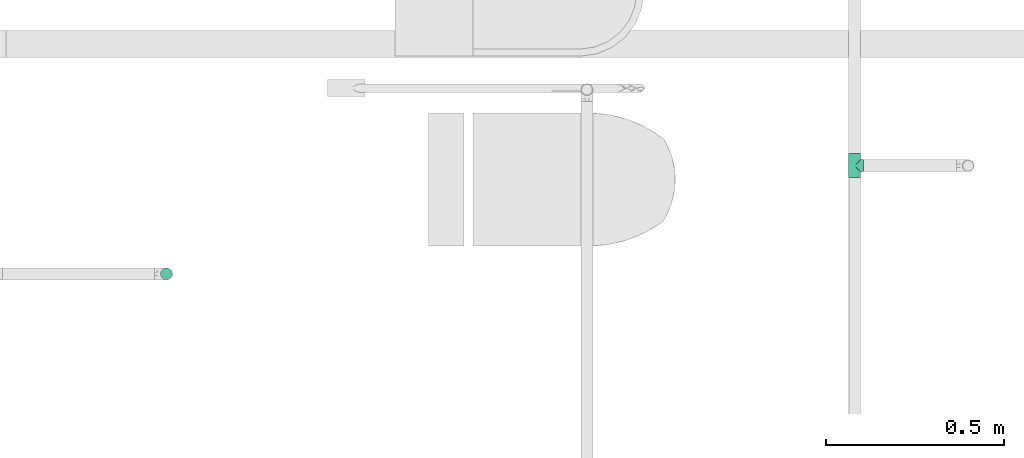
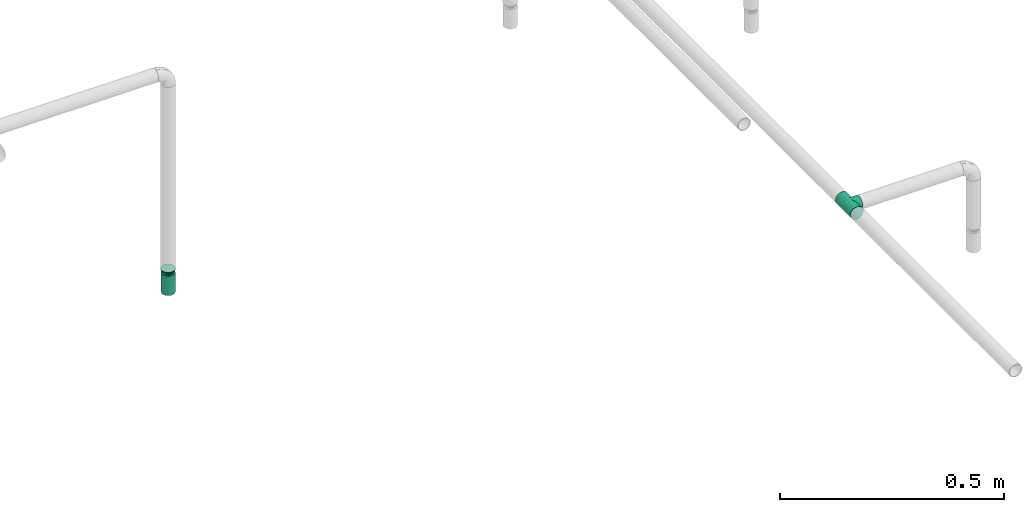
# One storey, part 46 of 95: 2 flow fittings, 1 flow terminal.
"""IFC2X3 building model written with IfcOpenShell, lengths in millimetres."""

from ifc_helpers import new_model, entity, si_unit, converted_unit, derived_unit, direction, frame, origin_with_axes, place, context, subcontext, project, spatial, open_shell, surface_model, source, transform, mapped, type_object, element, save


model = new_model("IFC2X3")

# Units and contexts
model_context = context("Model", 3, precision=0.01, world=frame((0.0, 4.29681676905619e-09, 0.0)), true_north=direction((4.01073788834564e-13, 1.0)))
plan_context = context("Plan", 3, precision=0.01, world=frame((0.0, 4.29681676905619e-09, 0.0)), true_north=direction((4.01073788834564e-13, 1.0)))
body_context = subcontext(model_context, "Body", "Model", "MODEL_VIEW")
ifc_project = project(units=[converted_unit("PLANEANGLEUNIT", "DEGREE", entity("IfcPositiveLengthMeasure", 0.0174532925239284), si_unit("PLANEANGLEUNIT", "RADIAN"), dimensions=[0, 0, 0, 0, 0, 0, 0]), si_unit("AREAUNIT", "SQUARE_METRE"), si_unit("LENGTHUNIT", "METRE", prefix="MILLI"), si_unit("MASSUNIT", "GRAM", prefix="KILO"), si_unit("POWERUNIT", "WATT"), si_unit("PRESSUREUNIT", "PASCAL"), si_unit("FORCEUNIT", "NEWTON", prefix="KILO"), si_unit("ELECTRICVOLTAGEUNIT", "VOLT"), si_unit("ELECTRICCURRENTUNIT", "AMPERE"), si_unit("THERMODYNAMICTEMPERATUREUNIT", "DEGREE_CELSIUS"), si_unit("TIMEUNIT", "SECOND"), si_unit("VOLUMEUNIT", "CUBIC_METRE"), derived_unit("LINEARVELOCITYUNIT", [(si_unit("LENGTHUNIT", "METRE"), 1), (si_unit("TIMEUNIT", "SECOND"), -1)]), derived_unit("VOLUMETRICFLOWRATEUNIT", [(si_unit("VOLUMEUNIT", "CUBIC_METRE"), 1), (si_unit("TIMEUNIT", "SECOND"), -1)]), derived_unit("THERMALTRANSMITTANCEUNIT", [(si_unit("POWERUNIT", "WATT"), 1), (si_unit("THERMODYNAMICTEMPERATUREUNIT", "KELVIN"), -1), (si_unit("AREAUNIT", "SQUARE_METRE"), -1)]), derived_unit("SOUNDPRESSUREUNIT", [(si_unit("PRESSUREUNIT", "PASCAL"), 1)])], contexts=[model_context, plan_context])

# Site, building, storey
site_placement = place(None, frame((0.0, -4.29681676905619e-09, 0.0), z_axis=(0.0, 0.0, 1.0), x_axis=(1.0, 0.0, 0.0)))
site = spatial("IfcSite", under=ifc_project, at=site_placement, CompositionType="ELEMENT")
building_placement = place(site_placement, frame((0.0, 4.29681676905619e-09, 0.0), z_axis=(0.0, 0.0, 1.0), x_axis=(1.0, 0.0, 0.0)))
building = spatial("IfcBuilding", under=site, at=building_placement, Name="mc-building", CompositionType="ELEMENT")
storey_placement = place(building_placement, frame((0.0, 0.0, 210900.0), z_axis=(0.0, 0.0, 1.0), x_axis=(1.0, 0.0, 0.0)))
storey = spatial("IfcBuildingStorey", under=building, at=storey_placement, Name="Nivå F", CompositionType="ELEMENT", Elevation=210900.0)

# Flow fittings
pipe_fitting_type_1 = type_object("IfcPipeFittingType", Name="magi_pipe_fe_reducer_centric_short_NOR", PredefinedType="TRANSITION")
shared_shape_1 = source(origin_with_axes(), body_context, "Body", "SurfaceModel", [
    surface_model("IfcShellBasedSurfaceModel", [(14.4, 5.35, -9.26647), (14.4, 0.0, -10.7), (14.4, 2.76936, -10.33541), (14.4, 10.33541, -2.76936), (14.4, 7.56604, -7.56604), (14.4, -10.33541, -2.76936), (14.4, 9.26647, -5.35), (14.4, 0.0, 10.7), (14.4, -5.35, -9.26647), (14.4, -2.76936, -10.33541), (14.4, -7.56604, -7.56604), (14.4, -9.26647, -5.35), (14.4, 10.7, 0.0), (14.4, 10.33541, 2.76936), (14.4, 9.26647, 5.35), (14.4, 7.56604, 7.56604), (14.4, 2.76936, 10.33541), (14.4, 5.35, 9.26647), (14.4, -10.33541, 2.76936), (14.4, -7.56604, 7.56604), (14.4, -9.26647, 5.35), (14.4, -10.7, 0.0), (14.4, -2.76936, 10.33541), (14.4, -5.35, 9.26647), (12.4, 2.76936, 10.33541), (12.4, -10.33541, -2.76936), (12.4, 0.0, 10.7), (12.4, 5.35, 9.26647), (12.4, 7.56604, 7.56604), (12.4, 9.26647, 5.35), (12.4, 10.33541, 2.76936), (12.4, -10.33541, 2.76936), (12.4, -2.76936, 10.33541), (12.4, -7.56604, 7.56604), (12.4, -5.35, 9.26647), (12.4, -9.26647, 5.35), (12.4, -10.7, 0.0), (12.4, 10.33541, -2.76936), (12.4, 5.35, -9.26647), (12.4, 9.26647, -5.35), (12.4, 7.56604, -7.56604), (12.4, 2.76936, -10.33541), (12.4, -9.26647, -5.35), (12.4, -5.35, -9.26647), (12.4, -7.56604, -7.56604), (12.4, 0.0, -10.7), (12.4, -2.76936, -10.33541), (12.4, 10.7, 0.0), (-2.0, 11.9501, 11.9501), (-2.0, 0.0, 16.9), (-2.0, 4.37404, 16.32415), (-2.0, 8.45, 14.63583), (-2.0, 14.63583, 8.45), (-2.0, 16.32415, 4.37404), (-2.0, -16.32415, 4.37404), (-2.0, -8.45, 14.63583), (-2.0, -14.63583, 8.45), (-2.0, -11.9501, 11.9501), (-2.0, -4.37404, 16.32415), (-2.0, -16.32415, -4.37404), (-2.0, -16.9, 0.0), (-2.0, -8.45, -14.63583), (-2.0, 16.32415, -4.37404), (-2.0, 11.9501, -11.9501), (-2.0, 14.63583, -8.45), (-2.0, 8.45, -14.63583), (-2.0, 4.37404, -16.32415), (-2.0, 0.0, -16.9), (-2.0, -11.9501, -11.9501), (-2.0, -14.63583, -8.45), (-2.0, -4.37404, -16.32415), (-2.0, 16.9, 0.0), (0.0, 4.37404, -16.32415), (0.0, 8.45, -14.63583), (0.0, 11.9501, -11.9501), (0.0, 0.0, -16.9), (0.0, 16.32415, -4.37404), (0.0, 16.32415, 4.37404), (0.0, 14.63583, -8.45), (0.0, -8.45, -14.63583), (0.0, -4.37404, -16.32415), (0.0, -11.9501, -11.9501), (0.0, -16.32415, -4.37404), (0.0, -14.63583, -8.45), (0.0, -16.32415, 4.37404), (0.0, 16.9, 0.0), (0.0, 14.63583, 8.45), (0.0, 11.9501, 11.9501), (0.0, 4.37404, 16.32415), (0.0, 8.45, 14.63583), (0.0, 0.0, 16.9), (0.0, -14.63583, 8.45), (0.0, -16.9, 0.0), (0.0, -8.45, 14.63583), (0.0, -11.9501, 11.9501), (0.0, -4.37404, 16.32415), (12.4, 9.3625, -2.31662), (0.0, 14.42505, -5.97505), (0.0, 15.66253, -2.98753), (12.4, -6.6875, -6.94985), (0.0, -13.18758, -8.96258), (0.0, 2.98753, -15.66253), (12.4, 0.0, -9.26647), (12.4, 6.6875, -6.94985), (0.0, 8.96258, -13.18758), (12.4, -9.3625, -2.31662), (0.0, -15.66253, -2.98753), (0.0, -14.42505, -5.97505), (0.0, 5.97505, -14.42505), (0.0, -2.98753, -15.66253), (0.0, -8.96258, -13.18758), (0.0, 13.18758, -8.96258), (12.4, 8.025, -4.63324), (12.4, -2.675, -9.26647), (12.4, 2.675, -9.26647), (0.0, -5.97505, -14.42505), (12.4, -8.025, -4.63324), (12.4, -9.3625, 2.31662), (0.0, -14.42505, 5.97505), (0.0, -15.66253, 2.98753), (12.4, 6.6875, 6.94985), (0.0, 13.18758, 8.96258), (0.0, -2.98753, 15.66253), (12.4, 0.0, 9.26647), (12.4, -6.6875, 6.94985), (0.0, -8.96258, 13.18758), (12.4, 9.3625, 2.31662), (0.0, 15.66253, 2.98753), (0.0, 14.42505, 5.97505), (0.0, -5.97505, 14.42505), (0.0, 2.98753, 15.66253), (0.0, 8.96258, 13.18758), (0.0, -13.18758, 8.96258), (12.4, -8.025, 4.63324), (12.4, 2.675, 9.26647), (12.4, -2.675, 9.26647), (0.0, 5.97505, 14.42505), (12.4, 8.025, 4.63324)], [open_shell([[[0, 1, 2]], [[3, 0, 4]], [[5, 0, 3]], [[3, 4, 6]], [[7, 5, 3]], [[1, 8, 9]], [[1, 0, 8]], [[10, 5, 11]], [[5, 10, 8]], [[0, 5, 8]], [[3, 12, 13]], [[13, 14, 15]], [[13, 15, 16]], [[7, 3, 16]], [[16, 15, 17]], [[7, 18, 5]], [[18, 19, 20]], [[21, 5, 18]], [[19, 22, 23]], [[22, 19, 18]], [[7, 22, 18]], [[13, 16, 3]], [[24, 25, 26]], [[27, 25, 24]], [[28, 29, 30]], [[28, 25, 27]], [[31, 26, 25]], [[32, 33, 34]], [[33, 32, 31]], [[33, 31, 35]], [[32, 26, 31]], [[31, 25, 36]], [[30, 37, 28]], [[25, 28, 37]], [[38, 37, 39]], [[37, 38, 25]], [[38, 39, 40]], [[41, 25, 38]], [[42, 43, 44]], [[43, 42, 25]], [[43, 45, 46]], [[43, 25, 41]], [[41, 45, 43]], [[37, 30, 47]], [[25, 5, 36]], [[42, 11, 25]], [[8, 44, 43]], [[42, 44, 10]], [[9, 43, 46]], [[25, 11, 5]], [[5, 21, 36]], [[9, 8, 43]], [[10, 44, 8]], [[10, 11, 42]], [[1, 9, 46]], [[46, 45, 1]], [[41, 2, 45]], [[38, 0, 41]], [[6, 40, 39]], [[38, 40, 4]], [[3, 39, 37]], [[38, 4, 0]], [[0, 2, 41]], [[12, 3, 37]], [[6, 39, 3]], [[6, 4, 40]], [[47, 12, 37]], [[45, 2, 1]], [[30, 13, 47]], [[29, 14, 30]], [[17, 28, 27]], [[29, 28, 15]], [[16, 27, 24]], [[30, 14, 13]], [[13, 12, 47]], [[16, 17, 27]], [[15, 28, 17]], [[15, 14, 29]], [[7, 16, 24]], [[24, 26, 7]], [[32, 22, 26]], [[34, 23, 32]], [[20, 33, 35]], [[34, 33, 19]], [[18, 35, 31]], [[34, 19, 23]], [[23, 22, 32]], [[21, 18, 31]], [[20, 35, 18]], [[20, 19, 33]], [[36, 21, 31]], [[26, 22, 7]], [[48, 49, 50]], [[48, 50, 51]], [[48, 52, 53]], [[48, 53, 49]], [[49, 53, 54]], [[55, 56, 57]], [[55, 58, 49]], [[56, 55, 49]], [[49, 54, 56]], [[54, 59, 60]], [[54, 53, 61]], [[53, 62, 63]], [[63, 62, 64]], [[63, 65, 66]], [[61, 53, 63]], [[67, 63, 66]], [[59, 68, 69]], [[68, 59, 61]], [[61, 67, 70]], [[59, 54, 61]], [[63, 67, 61]], [[53, 71, 62]], [[72, 73, 74]], [[75, 72, 74]], [[74, 76, 77]], [[76, 74, 78]], [[74, 77, 79]], [[75, 79, 80]], [[75, 74, 79]], [[81, 82, 83]], [[82, 81, 79]], [[79, 84, 82]], [[77, 76, 85]], [[77, 86, 87]], [[77, 87, 88]], [[88, 84, 79]], [[88, 87, 89]], [[84, 88, 90]], [[90, 91, 84]], [[92, 82, 84]], [[91, 93, 94]], [[91, 90, 93]], [[93, 90, 95]], [[79, 77, 88]], [[59, 82, 60]], [[69, 83, 59]], [[79, 68, 61]], [[69, 68, 81]], [[80, 61, 70]], [[59, 83, 82]], [[82, 92, 60]], [[80, 79, 61]], [[81, 68, 79]], [[81, 83, 69]], [[75, 80, 70]], [[70, 67, 75]], [[66, 72, 67]], [[65, 73, 66]], [[78, 63, 64]], [[65, 63, 74]], [[76, 64, 62]], [[65, 74, 73]], [[73, 72, 66]], [[85, 76, 62]], [[78, 64, 76]], [[78, 74, 63]], [[71, 85, 62]], [[67, 72, 75]], [[53, 77, 71]], [[52, 86, 53]], [[89, 48, 51]], [[52, 48, 87]], [[88, 51, 50]], [[53, 86, 77]], [[77, 85, 71]], [[88, 89, 51]], [[87, 48, 89]], [[87, 86, 52]], [[90, 88, 50]], [[50, 49, 90]], [[58, 95, 49]], [[55, 93, 58]], [[91, 57, 56]], [[55, 57, 94]], [[84, 56, 54]], [[55, 94, 93]], [[93, 95, 58]], [[92, 84, 54]], [[91, 56, 84]], [[91, 94, 57]], [[60, 92, 54]], [[49, 95, 90]], [[27, 34, 47]], [[47, 34, 43]], [[43, 38, 47]], [[43, 34, 36]], [[90, 87, 94]], [[92, 94, 87]], [[87, 74, 92]], [[75, 92, 74]], [[81, 92, 75]], [[74, 87, 85]], [[96, 97, 98]], [[81, 99, 100]], [[101, 102, 75]], [[98, 85, 47]], [[74, 103, 104]], [[104, 103, 38]], [[105, 106, 107]], [[38, 108, 104]], [[102, 109, 75]], [[110, 99, 81]], [[47, 96, 98]], [[103, 111, 112]], [[109, 102, 113]], [[36, 92, 106]], [[102, 101, 114]], [[110, 115, 43]], [[96, 112, 97]], [[107, 116, 105]], [[36, 106, 105]], [[113, 115, 109]], [[43, 115, 113]], [[116, 107, 100]], [[108, 38, 114]], [[111, 103, 74]], [[111, 97, 112]], [[99, 110, 43]], [[116, 100, 99]], [[101, 108, 114]], [[117, 118, 119]], [[87, 120, 121]], [[122, 123, 90]], [[119, 92, 36]], [[94, 124, 125]], [[125, 124, 34]], [[126, 127, 128]], [[34, 129, 125]], [[123, 130, 90]], [[131, 120, 87]], [[36, 117, 119]], [[124, 132, 133]], [[130, 123, 134]], [[47, 85, 127]], [[123, 122, 135]], [[131, 136, 27]], [[117, 133, 118]], [[128, 137, 126]], [[47, 127, 126]], [[134, 136, 130]], [[27, 136, 134]], [[137, 128, 121]], [[129, 34, 135]], [[132, 124, 94]], [[132, 118, 133]], [[120, 131, 27]], [[137, 121, 120]], [[122, 129, 135]]])]),
])
flow_fitting_1_placement = place(storey_placement, frame((530503.84755, 441213.77142, 3769.35200000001), z_axis=(0.0, -1.0, 0.0), x_axis=(0.0, 0.0, -1.0)))
element("IfcFlowFitting", 1, at=flow_fitting_1_placement, inside=storey, type_object=pipe_fitting_type_1, Name="magi_pipe_fe_reducer_centric_short_NOR", context=body_context, shape_type="MappedRepresentation", body=[
    mapped(shared_shape_1, transform((0.0, 0.0, 0.0), scale=1.0)),
])
pipe_fitting_type_2 = type_object("IfcPipeFittingType", Name="magi_pipe_fe_tee_centric_90_NOR", PredefinedType="JUNCTION")
shared_shape_2 = source(origin_with_axes(), body_context, "Body", "SurfaceModel", [
    surface_model("IfcShellBasedSurfaceModel", [(-33.8, 4.37404, -16.32415), (-33.8, 0.0, -16.9), (-33.8, 16.32415, -4.37404), (-33.8, 8.45, -14.63583), (-33.8, 11.9501, -11.9501), (-33.8, 14.63583, -8.45), (-33.8, -16.9, 0.0), (-33.8, -11.9501, -11.9501), (-33.8, -14.63583, -8.45), (-33.8, -8.45, -14.63583), (-33.8, -4.37404, -16.32415), (-33.8, -16.32415, -4.37404), (-33.8, 14.63583, 8.45), (-33.8, 16.32415, 4.37404), (-33.8, -8.45, 14.63583), (-33.8, 8.45, 14.63583), (-33.8, 11.9501, 11.9501), (-33.8, 4.37404, 16.32415), (-33.8, 0.0, 16.9), (-33.8, -11.9501, 11.9501), (-33.8, -14.63583, 8.45), (-33.8, -16.32415, 4.37404), (-33.8, -4.37404, 16.32415), (-33.8, 16.9, 0.0), (33.8, 4.37404, -16.32415), (33.8, -16.9, 0.0), (33.8, 0.0, -16.9), (33.8, 14.63583, -8.45), (33.8, 8.45, -14.63583), (33.8, 16.32415, -4.37404), (33.8, 11.9501, -11.9501), (33.8, -16.32415, 4.37404), (33.8, -8.45, -14.63583), (33.8, -4.37404, -16.32415), (33.8, -11.9501, -11.9501), (33.8, -14.63583, -8.45), (33.8, -16.32415, -4.37404), (33.8, 16.32415, 4.37404), (33.8, 8.45, 14.63583), (33.8, 14.63583, 8.45), (33.8, 11.9501, 11.9501), (33.8, -8.45, 14.63583), (33.8, 4.37404, 16.32415), (33.8, -14.63583, 8.45), (33.8, -11.9501, 11.9501), (33.8, 0.0, 16.9), (33.8, -4.37404, 16.32415), (33.8, 16.9, 0.0), (16.28698, -16.28698, 4.51047), (16.9, -16.9, 0.0), (14.62704, -14.62704, 8.4652), (9.47213, -9.47213, 13.99602), (12.26343, -12.26343, 11.62834), (-16.9, -16.9, 0.0), (-16.28698, -16.28698, 4.51047), (-14.62704, -14.62704, 8.4652), (-12.26343, -12.26343, 11.62834), (-9.47213, -9.47213, 13.99602), (-6.42894, -6.42894, 15.62942), (6.42894, -6.42894, 15.62942), (3.24522, -3.24522, 16.58549), (0.0, 0.0, 16.9), (-3.24522, -3.24522, 16.58549), (3.24522, -3.24522, -16.58549), (0.0, 0.0, -16.9), (-3.24522, -3.24522, -16.58549), (-6.42894, -6.42894, -15.62942), (6.42894, -6.42894, -15.62942), (9.47213, -9.47213, -13.99602), (12.26343, -12.26343, -11.62834), (14.62704, -14.62704, -8.4652), (16.28698, -16.28698, -4.51047), (-9.47213, -9.47213, -13.99602), (-12.26343, -12.26343, -11.62834), (-16.28698, -16.28698, -4.51047), (-14.62704, -14.62704, -8.4652), (4.37404, -25.35, -16.32415), (-16.9, -25.35, 0.0), (0.0, -25.35, -16.9), (14.63583, -25.35, -8.45), (8.45, -25.35, -14.63583), (16.32415, -25.35, -4.37404), (11.9501, -25.35, -11.9501), (-11.9501, -25.35, -11.9501), (-8.45, -25.35, -14.63583), (-4.37404, -25.35, -16.32415), (-14.63583, -25.35, -8.45), (-16.32415, -25.35, -4.37404), (16.9, -25.35, 0.0), (8.45, -25.35, 14.63583), (16.32415, -25.35, 4.37404), (14.63583, -25.35, 8.45), (-8.45, -25.35, 14.63583), (11.9501, -25.35, 11.9501), (4.37404, -25.35, 16.32415), (-16.32415, -25.35, 4.37404), (-11.9501, -25.35, 11.9501), (-14.63583, -25.35, 8.45), (0.0, -25.35, 16.9), (-4.37404, -25.35, 16.32415)], [open_shell([[[0, 1, 2]], [[3, 0, 4]], [[0, 2, 5]], [[4, 0, 5]], [[6, 2, 1]], [[7, 8, 9]], [[1, 10, 9]], [[11, 6, 8]], [[1, 9, 8]], [[1, 8, 6]], [[6, 12, 2]], [[12, 13, 2]], [[14, 12, 6]], [[12, 14, 15]], [[16, 12, 15]], [[17, 15, 18]], [[19, 14, 20]], [[21, 20, 14]], [[22, 18, 14]], [[14, 6, 21]], [[14, 18, 15]], [[23, 2, 13]], [[24, 25, 26]], [[27, 24, 28]], [[27, 29, 24]], [[27, 28, 30]], [[31, 25, 24]], [[26, 32, 33]], [[26, 34, 32]], [[35, 25, 36]], [[35, 34, 26]], [[25, 35, 26]], [[24, 29, 31]], [[29, 37, 38]], [[38, 37, 39]], [[38, 31, 29]], [[38, 39, 40]], [[41, 38, 42]], [[43, 41, 44]], [[41, 43, 31]], [[41, 45, 46]], [[41, 31, 38]], [[42, 45, 41]], [[29, 47, 37]], [[31, 43, 48]], [[25, 31, 49]], [[49, 31, 48]], [[43, 50, 48]], [[44, 41, 51]], [[50, 43, 52]], [[51, 52, 44]], [[52, 43, 44]], [[53, 54, 21]], [[53, 21, 6]], [[21, 54, 20]], [[54, 55, 20]], [[56, 57, 19]], [[19, 20, 56]], [[19, 57, 14]], [[56, 20, 55]], [[14, 57, 58]], [[51, 41, 59]], [[60, 45, 61]], [[59, 46, 60]], [[46, 59, 41]], [[60, 46, 45]], [[61, 45, 42]], [[39, 37, 13]], [[16, 38, 40]], [[12, 40, 39]], [[42, 38, 15]], [[23, 37, 47]], [[62, 61, 18]], [[62, 22, 58]], [[22, 62, 18]], [[58, 22, 14]], [[61, 17, 18]], [[42, 17, 61]], [[15, 17, 42]], [[15, 38, 16]], [[12, 16, 40]], [[13, 12, 39]], [[37, 23, 13]], [[5, 27, 30]], [[23, 47, 29]], [[30, 28, 3]], [[27, 2, 29]], [[26, 33, 63]], [[26, 64, 24]], [[64, 26, 63]], [[28, 24, 0]], [[64, 0, 24]], [[4, 30, 3]], [[2, 27, 5]], [[5, 30, 4]], [[2, 23, 29]], [[65, 66, 10]], [[1, 0, 64]], [[1, 65, 10]], [[66, 9, 10]], [[0, 3, 28]], [[1, 64, 65]], [[63, 33, 67]], [[32, 34, 68]], [[69, 68, 34]], [[35, 70, 69]], [[69, 34, 35]], [[32, 68, 67]], [[36, 25, 49]], [[36, 71, 35]], [[71, 36, 49]], [[35, 71, 70]], [[72, 9, 66]], [[72, 7, 9]], [[7, 72, 73]], [[7, 73, 8]], [[74, 53, 11]], [[75, 74, 8]], [[74, 11, 8]], [[11, 53, 6]], [[75, 8, 73]], [[32, 67, 33]], [[76, 77, 78]], [[79, 76, 80]], [[79, 81, 76]], [[79, 80, 82]], [[77, 76, 81]], [[78, 83, 84]], [[84, 85, 78]], [[86, 77, 87]], [[83, 78, 86]], [[77, 86, 78]], [[81, 88, 77]], [[89, 88, 90]], [[89, 90, 91]], [[92, 77, 89]], [[89, 91, 93]], [[92, 89, 94]], [[95, 96, 97]], [[96, 95, 92]], [[92, 98, 99]], [[95, 77, 92]], [[94, 98, 92]], [[89, 77, 88]], [[77, 95, 53]], [[54, 53, 95]], [[97, 96, 56]], [[96, 92, 57]], [[95, 97, 54]], [[58, 92, 99]], [[55, 54, 97]], [[56, 55, 97]], [[58, 57, 92]], [[98, 61, 62]], [[58, 99, 62]], [[56, 96, 57]], [[62, 99, 98]], [[94, 60, 98]], [[89, 59, 94]], [[91, 90, 48]], [[52, 93, 91]], [[93, 51, 89]], [[49, 90, 88]], [[59, 60, 94]], [[51, 59, 89]], [[49, 48, 90]], [[50, 52, 91]], [[48, 50, 91]], [[51, 93, 52]], [[98, 60, 61]], [[88, 81, 49]], [[71, 49, 81]], [[79, 82, 69]], [[82, 80, 68]], [[81, 79, 71]], [[67, 80, 76]], [[70, 71, 79]], [[69, 70, 79]], [[67, 68, 80]], [[78, 64, 63]], [[67, 76, 63]], [[69, 82, 68]], [[63, 76, 78]], [[85, 65, 78]], [[84, 66, 85]], [[86, 87, 74]], [[86, 73, 83]], [[72, 84, 83]], [[53, 87, 77]], [[66, 65, 85]], [[72, 66, 84]], [[53, 74, 87]], [[75, 73, 86]], [[74, 75, 86]], [[72, 83, 73]], [[78, 65, 64]]])]),
])
flow_fitting_2_placement = place(storey_placement, frame((532438.43666, 441518.15849, 3080.14999999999), z_axis=(0.0, 0.0, 1.0), x_axis=(0.0, 1.0, 0.0)))
element("IfcFlowFitting", 2, at=flow_fitting_2_placement, inside=storey, type_object=pipe_fitting_type_2, Name="magi_pipe_fe_tee_centric_90_NOR", context=body_context, shape_type="MappedRepresentation", body=[
    mapped(shared_shape_2, transform((0.0, 0.0, 0.0), scale=1.0)),
])

# Flow terminal
fire_suppression_terminal_type = type_object("IfcFireSuppressionTerminalType", Name="SP-15-K80-68DGR-STD-HIMLING", PredefinedType="NOTDEFINED")
shared_shape_3 = source(origin_with_axes(), body_context, "Body", "SurfaceModel", [
    surface_model("IfcShellBasedSurfaceModel", [(15.45481, -4.1411, 53.0), (13.85641, -8.0, 53.0), (15.45481, -4.1411, 0.0), (16.0, 0.0, 0.0), (16.0, 0.0, 53.0), (15.45481, 4.1411, 0.0), (13.85641, 8.0, 53.0), (15.45481, 4.1411, 53.0), (11.31371, 11.31371, 53.0), (8.0, 13.85641, 53.0), (4.1411, 15.45481, 53.0), (-8.0, 13.85641, 53.0), (-4.1411, 15.45481, 53.0), (0.0, 16.0, 53.0), (-11.31371, 11.31371, 53.0), (-13.85641, 8.0, 53.0), (-15.45481, 4.1411, 53.0), (11.31371, -11.31371, 53.0), (-16.0, 0.0, 53.0), (0.0, -16.0, 53.0), (4.1411, -15.45481, 53.0), (8.0, -13.85641, 53.0), (-13.85641, -8.0, 53.0), (-11.31371, -11.31371, 53.0), (-15.45481, -4.1411, 53.0), (-8.0, -13.85641, 53.0), (-4.1411, -15.45481, 53.0), (8.0, -13.85641, 0.0), (4.1411, -15.45481, 0.0), (0.0, -16.0, 0.0), (-4.1411, -15.45481, 0.0), (13.85641, -8.0, 0.0), (11.31371, -11.31371, 0.0), (-16.0, 0.0, 0.0), (-8.0, -13.85641, 0.0), (-11.31371, -11.31371, 0.0), (-13.85641, -8.0, 0.0), (-15.45481, -4.1411, 0.0), (4.1411, 15.45481, 0.0), (13.85641, 8.0, 0.0), (8.0, 13.85641, 0.0), (11.31371, 11.31371, 0.0), (-15.45481, 4.1411, 0.0), (-11.31371, 11.31371, 0.0), (-8.0, 13.85641, 0.0), (-13.85641, 8.0, 0.0), (-4.1411, 15.45481, 0.0), (0.0, 16.0, 0.0)], [open_shell([[[0, 1, 2]], [[3, 4, 0]], [[5, 6, 7]], [[7, 4, 3]], [[8, 9, 10]], [[8, 10, 11]], [[8, 4, 7]], [[6, 8, 7]], [[4, 8, 11]], [[12, 11, 13]], [[11, 10, 13]], [[14, 15, 11]], [[16, 11, 15]], [[11, 16, 4]], [[16, 0, 4]], [[17, 1, 0]], [[18, 17, 16]], [[19, 20, 21]], [[18, 21, 17]], [[21, 18, 19]], [[22, 23, 24]], [[18, 24, 23]], [[25, 26, 23]], [[18, 23, 26]], [[26, 19, 18]], [[0, 16, 17]], [[27, 28, 29]], [[27, 29, 30]], [[2, 31, 32]], [[32, 27, 33]], [[2, 32, 33]], [[34, 35, 30]], [[36, 30, 35]], [[36, 37, 30]], [[37, 27, 30]], [[37, 33, 27]], [[33, 5, 2]], [[38, 5, 33]], [[39, 5, 38]], [[38, 40, 41]], [[39, 38, 41]], [[33, 42, 38]], [[43, 44, 45]], [[42, 45, 44]], [[46, 47, 44]], [[38, 42, 44]], [[44, 47, 38]], [[5, 3, 2]], [[45, 42, 16]], [[45, 15, 43]], [[46, 44, 11]], [[14, 44, 43]], [[47, 46, 12]], [[33, 18, 42]], [[18, 16, 42]], [[16, 15, 45]], [[15, 14, 43]], [[44, 14, 11]], [[11, 12, 46]], [[12, 13, 47]], [[40, 38, 10]], [[40, 9, 41]], [[5, 39, 6]], [[8, 39, 41]], [[3, 5, 7]], [[13, 10, 38]], [[10, 9, 40]], [[9, 8, 41]], [[8, 6, 39]], [[47, 13, 38]], [[2, 3, 0]], [[31, 2, 1]], [[28, 27, 21]], [[29, 28, 20]], [[1, 17, 32]], [[17, 27, 32]], [[21, 27, 17]], [[21, 20, 28]], [[31, 1, 32]], [[20, 19, 29]], [[34, 30, 26]], [[34, 25, 35]], [[37, 36, 22]], [[23, 36, 35]], [[33, 37, 24]], [[19, 26, 30]], [[26, 25, 34]], [[25, 23, 35]], [[23, 22, 36]], [[37, 22, 24]], [[24, 18, 33]], [[29, 19, 30]]])]),
])
flow_terminal_placement = place(storey_placement, frame((530503.84755, 441213.77142, 3760.0), z_axis=(0.0, 0.0, -1.0), x_axis=(1.0, 0.0, 0.0)))
element("IfcFlowTerminal", 3, at=flow_terminal_placement, inside=storey, type_object=fire_suppression_terminal_type, Name="SP-15-K80-68DGR-STD-HIMLING", context=body_context, shape_type="MappedRepresentation", body=[
    mapped(shared_shape_3, transform((0.0, 0.0, 0.0), scale=1.0)),
])

save(model, "model.ifc")
